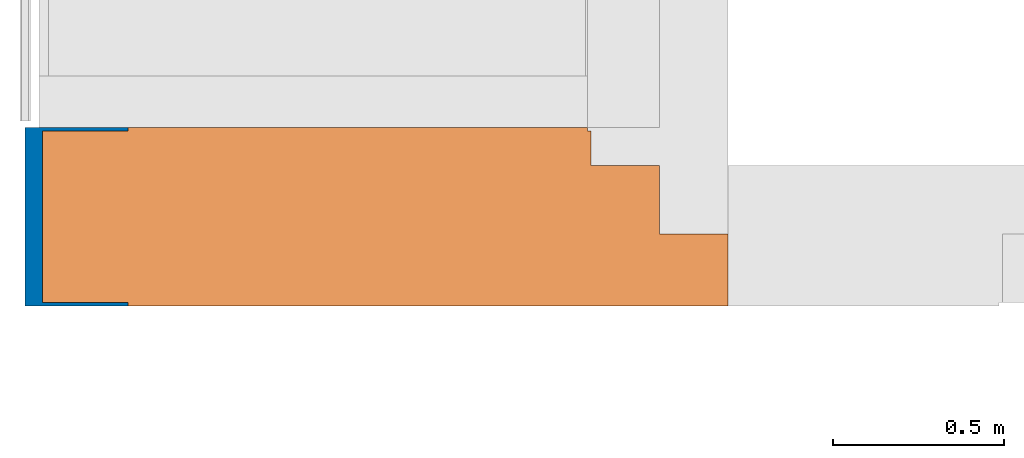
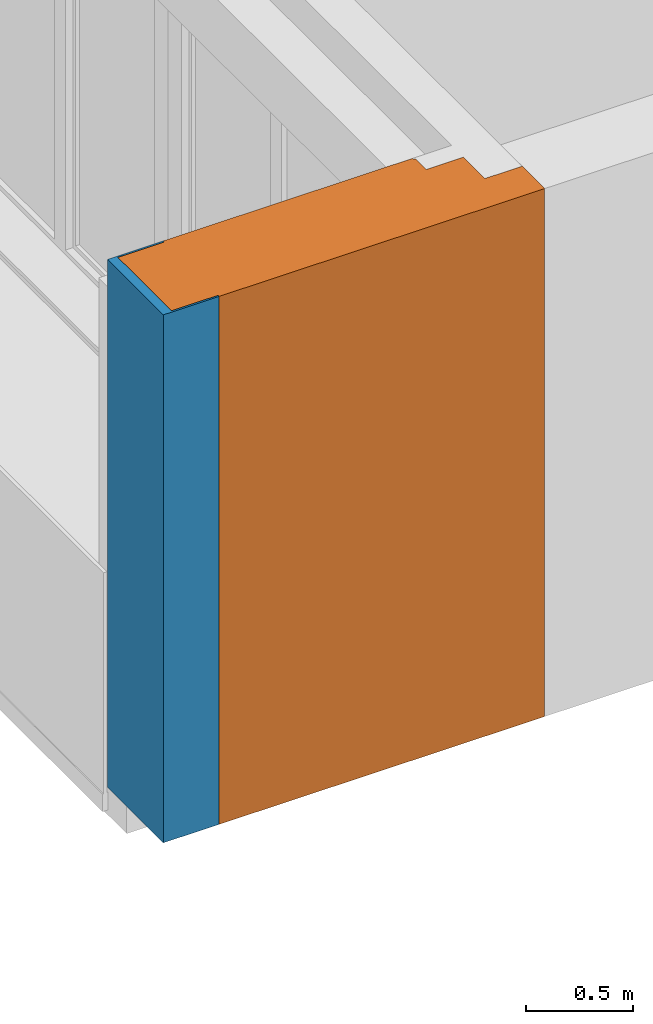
# One storey, part 43 of 64: 1 proxy, 1 wall, 1 opening.
"""IFC2X3 building model written with IfcOpenShell, lengths in millimetres."""

from ifc_helpers import new_model, entity, si_unit, converted_unit, derived_unit, money_unit, direction, frame, origin_with_axes, origin_2d_with_axis, place, context, subcontext, project, spatial, rectangle, extrude, faceted_brep, source, transform, mapped, material, material_list, type_object, element, fill, save


model = new_model("IFC2X3")

# Units and contexts
model_context = context("Model", 3, precision=0.01, world=origin_with_axes(), true_north=direction((0.34421633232, 0.938890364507)))
body_context = subcontext(model_context, "Body", "Model", "MODEL_VIEW")
ifc_project = project(units=[si_unit("LENGTHUNIT", "METRE", prefix="MILLI"), si_unit("AREAUNIT", "SQUARE_METRE"), si_unit("VOLUMEUNIT", "CUBIC_METRE"), converted_unit("PLANEANGLEUNIT", "DEGREE", entity("IfcPlaneAngleMeasure", 0.0174532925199), si_unit("PLANEANGLEUNIT", "RADIAN"), dimensions=[0, 0, 0, 0, 0, 0, 0]), si_unit("SOLIDANGLEUNIT", "STERADIAN"), money_unit("USD"), converted_unit("TIMEUNIT", "Year", entity("IfcTimeMeasure", 31556926.0), si_unit("TIMEUNIT", "SECOND"), dimensions=[0, 0, 1, 0, 0, 0, 0]), si_unit("MASSUNIT", "GRAM", prefix="KILO"), si_unit("THERMODYNAMICTEMPERATUREUNIT", "DEGREE_CELSIUS"), si_unit("LUMINOUSINTENSITYUNIT", "LUMEN"), si_unit("ENERGYUNIT", "JOULE", prefix="MEGA"), derived_unit("THERMALCONDUCTANCEUNIT", [(si_unit("POWERUNIT", "WATT"), 1), (si_unit("LENGTHUNIT", "METRE"), -1), (si_unit("THERMODYNAMICTEMPERATUREUNIT", "KELVIN"), -1)]), derived_unit("SPECIFICHEATCAPACITYUNIT", [(si_unit("ENERGYUNIT", "JOULE"), 1), (si_unit("MASSUNIT", "GRAM", prefix="KILO"), -1), (si_unit("THERMODYNAMICTEMPERATUREUNIT", "KELVIN"), -1)]), derived_unit("MASSDENSITYUNIT", [(si_unit("MASSUNIT", "GRAM", prefix="KILO"), 1), (si_unit("VOLUMEUNIT", "CUBIC_METRE"), -1)])], contexts=[model_context])

# Site, building, storey
site_placement = place(None, origin_with_axes())
site = spatial("IfcSite", under=ifc_project, at=site_placement, Name="USTRONIE MORSKIE", CompositionType="ELEMENT")
building_placement = place(site_placement, origin_with_axes())
building = spatial("IfcBuilding", under=site, at=building_placement, Name="Budynek", CompositionType="ELEMENT")
storey_placement = place(building_placement, frame((0.0, 0.0, 7000.0), z_axis=(0.0, 0.0, 1.0), x_axis=(1.0, 0.0, 0.0)))
storey = spatial("IfcBuildingStorey", under=building, at=storey_placement, Name="PIĘTRO 2", CompositionType="ELEMENT", Elevation=7000.0)

# Proxy, opening, wall
ifc_material_1 = material(Name="Tynk zewnętrzny")
ifc_material_2 = material(Name="Wełna ELEW")
ifc_material_3 = material(Name="Beton konstrukcyjny B25")
ifc_material_list = material_list([ifc_material_1, ifc_material_2, ifc_material_3, ifc_material_2, ifc_material_1])
building_element_proxy_type = type_object("IfcBuildingElementProxyType", Name="BALKON bok 01 520", PredefinedType="NOTDEFINED")
proxy_placement = place(storey_placement, frame((350067.920919, 715101.199036, -160.0), z_axis=(0.0, 0.0, 1.0), x_axis=(-1.0, 0.0, 0.0)))
proxy = element("IfcBuildingElementProxy", 1, at=proxy_placement, inside=storey, type_object=building_element_proxy_type, material=ifc_material_list, Name="Œciana-006", context=body_context, shape_type="Brep", body=[
    faceted_brep([(-100.0, 300.0, 3000.0), (1949.99981809, 300.0, 3000.0), (1949.99981809, 310.0, 3000.0), (-100.0, 310.0, 3000.0), (-100.0, 300.0, 0.0), (1949.99981809, 300.0, 0.0), (1949.99981809, 310.0, 0.0), (-100.0, 310.0, 0.0)], [[[0, 1, 2, 3]], [[4, 5, 1, 0]], [[2, 1, 5, 6]], [[3, 2, 6, 7]], [[4, 0, 3, 7]], [[7, 6, 5, 4]]]),
    faceted_brep([(-100.0, 100.0, 3000.0), (1949.99981809, 100.0, 3000.0), (1949.99981809, 300.0, 3000.0), (-100.0, 300.0, 3000.0), (-100.0, 100.0, 0.0), (1949.99981809, 100.0, 0.0), (1949.99981809, 300.0, 0.0), (-100.0, 300.0, 0.0)], [[[0, 1, 2, 3]], [[4, 5, 1, 0]], [[2, 1, 5, 6]], [[3, 2, 6, 7]], [[4, 0, 3, 7]], [[7, 6, 5, 4]]]),
    faceted_brep([(100.0, -100.0, 3000.0), (1949.99981809, -100.0, 3000.0), (1949.99981809, 100.0, 3000.0), (100.0, 100.0, 3000.0), (100.0, -100.0, 0.0), (1949.99981809, -100.0, 0.0), (1949.99981809, 100.0, 0.0), (100.0, 100.0, 0.0)], [[[0, 1, 2, 3]], [[4, 5, 1, 0]], [[2, 1, 5, 6]], [[3, 2, 6, 7]], [[4, 0, 3, 7]], [[7, 6, 5, 4]]]),
    faceted_brep([(299.999891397, -100.0, 9.99999623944), (299.999891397, -200.0, 9.99999623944), (300.0, -200.0, 3000.0), (300.0, -100.0, 3000.0), (1910.03040031, -100.0, 10.0000009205), (1910.03040031, -200.0, 10.0000009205), (1910.03040031, -200.0, 0.0), (1949.99981809, -200.0, 0.0), (1949.99981809, -200.0, 3000.0), (1949.99981809, -100.0, 3000.0), (1949.99981809, -100.0, 0.0), (1910.03040031, -100.0, 0.0)], [[[0, 1, 2, 3]], [[1, 0, 4, 5]], [[1, 5, 6, 7, 8, 2]], [[2, 8, 9, 3]], [[0, 3, 9, 10, 11, 4]], [[6, 5, 4, 11]], [[6, 11, 10, 7]], [[9, 8, 7, 10]]]),
    faceted_brep([(310.0, -200.0, 9.99999638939), (310.0, -210.0, 9.99999638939), (310.0, -210.0, 3000.0), (310.0, -200.0, 3000.0), (1910.03040031, -200.0, 10.0000009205), (1910.03040031, -210.0, 10.0000009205), (1910.03040031, -210.0, 0.0), (1949.99981809, -210.0, 0.0), (1949.99981809, -210.0, 3000.0), (1949.99981809, -200.0, 3000.0), (1949.99981809, -200.0, 0.0), (1910.03040031, -200.0, 0.0)], [[[0, 1, 2, 3]], [[1, 0, 4, 5]], [[1, 5, 6, 7, 8, 2]], [[2, 8, 9, 3]], [[0, 3, 9, 10, 11, 4]], [[6, 5, 4, 11]], [[6, 11, 10, 7]], [[9, 8, 7, 10]]]),
])
opening_placement = place(proxy_placement, frame((1949.99981809, 0.0, 0.0), z_axis=(0.0, 0.0, 1.0), x_axis=(1.0, 0.0, 0.0)))
opening = element("IfcOpeningElement", 2, at=opening_placement, cuts=proxy, Name="ZS1", context=body_context, shape_type="SweptSolid", body=[
    extrude(rectangle(XDim=9.99999999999, YDim=50.0, at=origin_2d_with_axis()), frame((-25.0, 305.0, 0.0), z_axis=(0.0, 0.0, 1.0), x_axis=(0.0, -1.0, 0.0)), (0.0, 0.0, 1.0), 3000.0),
    extrude(rectangle(XDim=9.99999999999, YDim=250.0, at=origin_2d_with_axis()), frame((-175.0, 305.0, 0.0), z_axis=(0.0, 0.0, 1.0), x_axis=(0.0, -1.0, 0.0)), (0.0, 0.0, 1.0), 3000.0),
    extrude(rectangle(XDim=9.99999999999, YDim=50.0, at=origin_2d_with_axis()), frame((-25.0, -205.0, 0.0), z_axis=(0.0, 0.0, 1.0), x_axis=(0.0, -1.0, 0.0)), (0.0, 0.0, 1.0), 3000.0),
    extrude(rectangle(XDim=9.99999999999, YDim=250.0, at=origin_2d_with_axis()), frame((-175.0, -205.0, 0.0), z_axis=(0.0, 0.0, 1.0), x_axis=(0.0, -1.0, 0.0)), (0.0, 0.0, 1.0), 3000.0),
    extrude(rectangle(XDim=500.0, YDim=50.0, at=origin_2d_with_axis()), frame((-25.0, 50.0, 0.0), z_axis=(0.0, 0.0, 1.0), x_axis=(0.0, -1.0, 0.0)), (0.0, 0.0, 1.0), 3000.0),
])
wall_type = type_object("IfcWallType", Name="Zakończenie zamknięte 23", PredefinedType="NOTDEFINED")
shared_shape = source(origin_with_axes(), body_context, "Body", "Brep", [
    faceted_brep([(0.0, 0.0, 0.0), (0.0, -50.0, 0.0), (0.0, -50.0, 3000.0), (0.0, 0.0, 3000.0), (10.0, 0.0, 0.0), (10.0, -50.0, 0.0), (10.0, -50.0, 3000.0), (10.0, 0.0, 3000.0)], [[[0, 1, 2, 3]], [[4, 5, 1, 0]], [[5, 6, 2, 1]], [[6, 7, 3, 2]], [[7, 4, 0, 3]], [[4, 7, 6, 5]]]),
    faceted_brep([(0.0, -50.0, 0.0), (0.0, -300.0, 0.0), (0.0, -300.0, 3000.0), (0.0, -50.0, 3000.0), (10.0, -50.0, 0.0), (10.0, -300.0, 0.0), (10.0, -300.0, 3000.0), (10.0, -50.0, 3000.0)], [[[0, 1, 2, 3]], [[4, 5, 1, 0]], [[5, 6, 2, 1]], [[6, 7, 3, 2]], [[7, 4, 0, 3]], [[4, 7, 6, 5]]]),
    faceted_brep([(510.0, 0.0, 0.0), (510.0, -50.0, 0.0), (510.0, -50.0, 3000.0), (510.0, 0.0, 3000.0), (520.0, 0.0, 0.0), (520.0, -50.0, 0.0), (520.0, -50.0, 3000.0), (520.0, 0.0, 3000.0)], [[[0, 1, 2, 3]], [[4, 5, 1, 0]], [[5, 6, 2, 1]], [[6, 7, 3, 2]], [[7, 4, 0, 3]], [[4, 7, 6, 5]]]),
    faceted_brep([(510.0, -50.0, 0.0), (510.0, -300.0, 0.0), (510.0, -300.0, 3000.0), (510.0, -50.0, 3000.0), (520.0, -50.0, 0.0), (520.0, -300.0, 0.0), (520.0, -300.0, 3000.0), (520.0, -50.0, 3000.0)], [[[0, 1, 2, 3]], [[4, 5, 1, 0]], [[5, 6, 2, 1]], [[6, 7, 3, 2]], [[7, 4, 0, 3]], [[4, 7, 6, 5]]]),
    faceted_brep([(10.0, 0.0, 0.0), (10.0, -50.0, 0.0), (10.0, -50.0, 3000.0), (10.0, 0.0, 3000.0), (510.0, 0.0, 0.0), (510.0, -50.0, 0.0), (510.0, -50.0, 3000.0), (510.0, 0.0, 3000.0)], [[[0, 1, 2, 3]], [[4, 5, 1, 0]], [[5, 6, 2, 1]], [[6, 7, 3, 2]], [[7, 4, 0, 3]], [[4, 7, 6, 5]]]),
])
wall_placement = place(opening_placement, frame((150.0, 0.0, 0.0), z_axis=(0.0, 0.0, 1.0), x_axis=(-1.0, 0.0, 0.0)))
wall = element("IfcWall", 3, at=wall_placement, inside=storey, type_object=wall_type, material=ifc_material_1, Name="ZS1", context=body_context, shape_type="MappedRepresentation", body=[
    mapped(shared_shape, transform((150.0, -310.0, 0.0), x_axis=(0.0, 1.0, 0.0), y_axis=(-1.0, 0.0, 0.0), z_axis=(0.0, 0.0, 1.0))),
])
fill(opening, wall)

save(model, "model.ifc")
